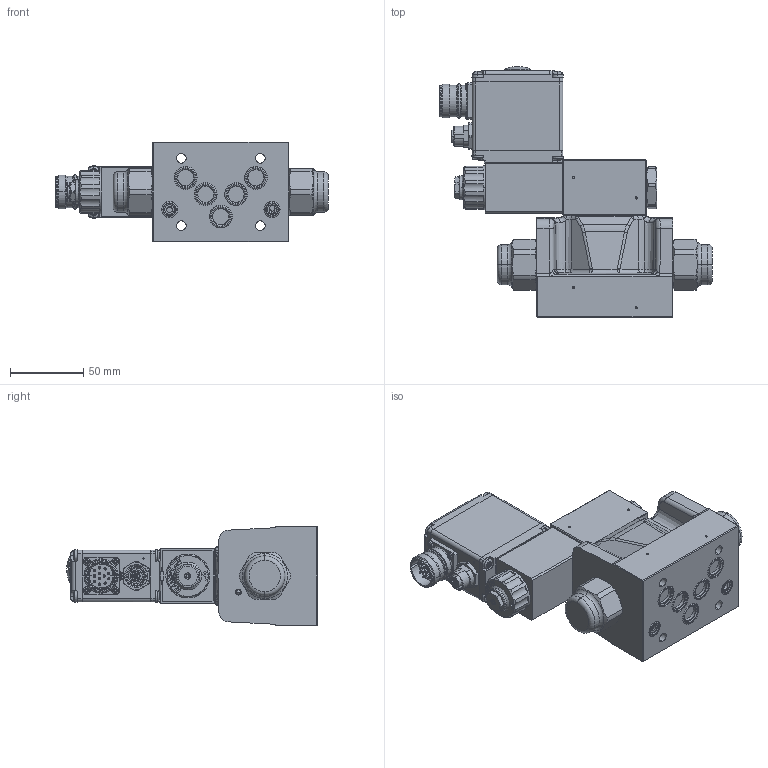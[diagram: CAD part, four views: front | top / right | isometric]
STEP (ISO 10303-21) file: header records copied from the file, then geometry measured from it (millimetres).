
FILE_DESCRIPTION (( 'STEP AP214' ), '1' );
FILE_NAME ('WVPFA10-4_2-Aside-ti_ae_xi_xe.STEP', '2018-12-21T08:38:56', ( '' ), ( '' ), 'SwSTEP 2.0', 'SolidWorks 2016', '' );
FILE_SCHEMA (( 'AUTOMOTIVE_DESIGN' ));
Length unit declared in the file: millimetre
Products named in the file (2): WVPFA10-4_2-Aside-ti_ae_xi_xe
Bounding box: 186.4 x 171.49 x 68 mm (x, y, z)
Volume: 699462.4 mm3; surface area: 102841.4 mm2
Topology: 31 solids, 66 shells, 4513 faces, 12151 edges, 7889 vertices
Faces by surface type: plane 2226, cylinder 1456, cone 300, torus 241, bspline 233, sphere 57
Entity records: 259379 total; most frequent: CARTESIAN_POINT 50272, ORIENTED_EDGE 31470, DIRECTION 29170, EDGE_CURVE 15735, VERTEX_POINT 10262, LINE 10074, VECTOR 10074, AXIS2_PLACEMENT_3D 9548
